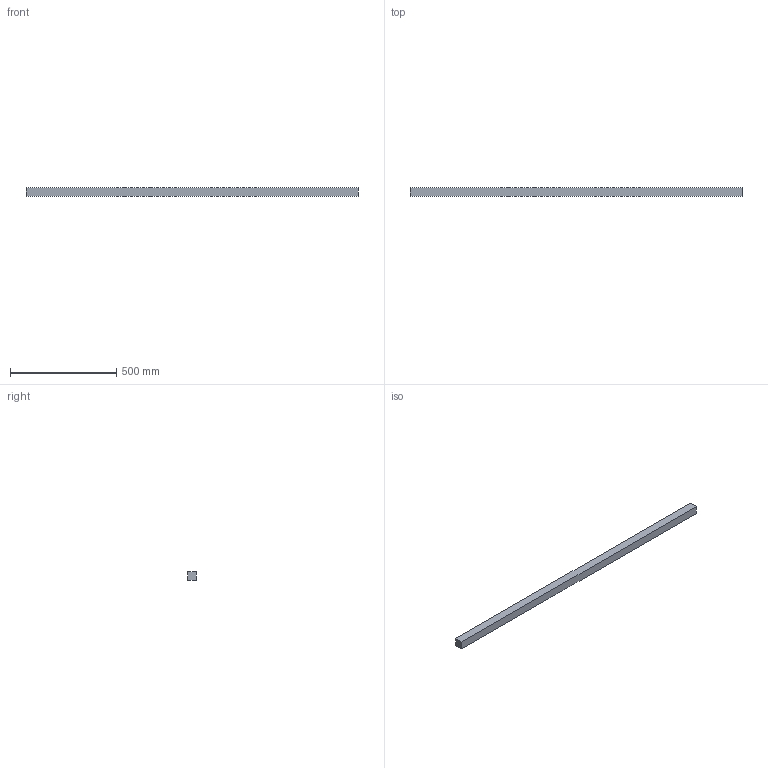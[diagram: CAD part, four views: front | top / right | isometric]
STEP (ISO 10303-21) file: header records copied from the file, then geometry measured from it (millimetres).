
FILE_DESCRIPTION(/* description */ (''),/* implementation_level */ '2;1');
FILE_NAME(/* name */ 'FR153F~1',/* time_stamp */ '2014-02-14T19:35:42+01:00',/* author */ (''),/* organization */ (''),/* preprocessor_version */ 'ST-DEVELOPER v14',/* originating_system */ '',/* authorisation */ '');
FILE_SCHEMA (('AUTOMOTIVE_DESIGN'));
Length unit declared in the file: millimetre
Products named in the file (1): Document
Bounding box: 1564 x 40 x 40 mm (x, y, z)
Volume: 2502400 mm3; surface area: 253440 mm2
Topology: 1 solids, 1 shells, 6 faces, 12 edges, 8 vertices
Faces by surface type: plane 6
Entity records: 298 total; most frequent: CARTESIAN_POINT 88, B_SPLINE_CURVE_WITH_KNOTS 36, ORIENTED_EDGE 24, PCURVE 24, DEFINITIONAL_REPRESENTATION 24, SURFACE_CURVE 12, EDGE_CURVE 12, DIRECTION 10
